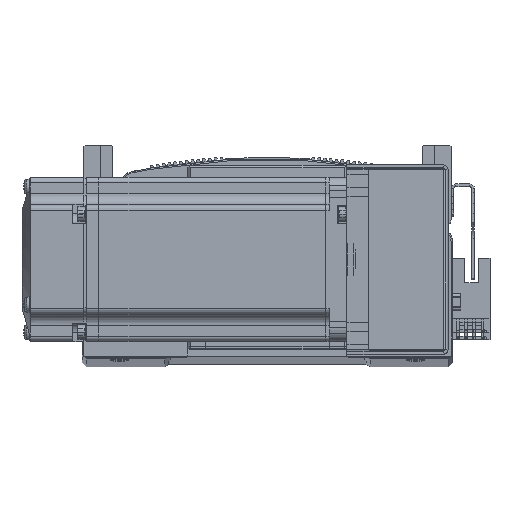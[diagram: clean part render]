
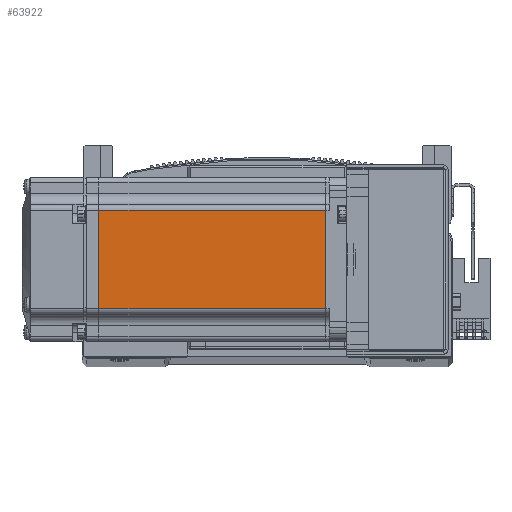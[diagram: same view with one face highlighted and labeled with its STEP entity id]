
A CAD part, top view. The second image highlights one B-rep face of the part: STEP entity #63922.
In plain terms, the highlighted planar face has unit normal (0, 0, 1) as drawn and (0, -1, 0) by its records, which use the part's own axes.
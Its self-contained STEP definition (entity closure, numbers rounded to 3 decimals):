
#12331 = AXIS2_PLACEMENT_3D ( 'NONE', #61603, #61636, #61640 ) ;
#23699 = VERTEX_POINT ( 'NONE', #35428 ) ;
#23715 = VERTEX_POINT ( 'NONE', #35538 ) ;
#23717 = VERTEX_POINT ( 'NONE', #35496 ) ;
#23753 = VERTEX_POINT ( 'NONE', #35475 ) ;
#29381 = EDGE_LOOP ( 'NONE', ( #51395, #51459, #51345, #51321 ) ) ;
#35428 = CARTESIAN_POINT ( 'NONE',  ( -7.75, -30., -18. ) ) ;
#35475 = CARTESIAN_POINT ( 'NONE',  ( -7.75, -30., 18. ) ) ;
#35496 = CARTESIAN_POINT ( 'NONE',  ( -90.45, -30., -18. ) ) ;
#35538 = CARTESIAN_POINT ( 'NONE',  ( -90.45, -30., 18. ) ) ;
#38587 = CARTESIAN_POINT ( 'NONE',  ( -6.5, -30., -18. ) ) ;
#38618 = DIRECTION ( 'NONE',  ( -1., 0., 0. ) ) ;
#38922 = CARTESIAN_POINT ( 'NONE',  ( -7.75, -30., 0. ) ) ;
#38972 = DIRECTION ( 'NONE',  ( 0., 0., -1. ) ) ;
#44108 = DIRECTION ( 'NONE',  ( 0., 0., -1. ) ) ;
#44110 = CARTESIAN_POINT ( 'NONE',  ( -90.45, -30., 0. ) ) ;
#45503 = LINE ( 'NONE', #46134, #45598 ) ;
#45598 = VECTOR ( 'NONE', #46148, 1000. ) ;
#45617 = VECTOR ( 'NONE', #44108, 1000. ) ;
#45713 = LINE ( 'NONE', #44110, #45617 ) ;
#45760 = LINE ( 'NONE', #38587, #45763 ) ;
#45763 = VECTOR ( 'NONE', #38618, 1000. ) ;
#45839 = VECTOR ( 'NONE', #38972, 1000. ) ;
#45866 = LINE ( 'NONE', #38922, #45839 ) ;
#46134 = CARTESIAN_POINT ( 'NONE',  ( -6.5, -30., 18. ) ) ;
#46148 = DIRECTION ( 'NONE',  ( -1., 0., 0. ) ) ;
#51321 = ORIENTED_EDGE ( 'NONE', *, *, #58770, .F. ) ;
#51345 = ORIENTED_EDGE ( 'NONE', *, *, #58732, .T. ) ;
#51395 = ORIENTED_EDGE ( 'NONE', *, *, #58809, .F. ) ;
#51459 = ORIENTED_EDGE ( 'NONE', *, *, #58722, .T. ) ;
#58722 = EDGE_CURVE ( 'NONE', #23753, #23715, #45503, .T. ) ;
#58732 = EDGE_CURVE ( 'NONE', #23715, #23717, #45713, .T. ) ;
#58770 = EDGE_CURVE ( 'NONE', #23699, #23717, #45760, .T. ) ;
#58809 = EDGE_CURVE ( 'NONE', #23753, #23699, #45866, .T. ) ;
#61603 = CARTESIAN_POINT ( 'NONE',  ( -6.5, -30., -25. ) ) ;
#61619 = PLANE ( 'NONE',  #12331 ) ;
#61636 = DIRECTION ( 'NONE',  ( 0., -1., 0. ) ) ;
#61640 = DIRECTION ( 'NONE',  ( 0., 0., -1. ) ) ;
#63922 = ADVANCED_FACE ( 'NONE', ( #78575 ), #61619, .T. ) ;
#78575 = FACE_OUTER_BOUND ( 'NONE', #29381, .T. ) ;
